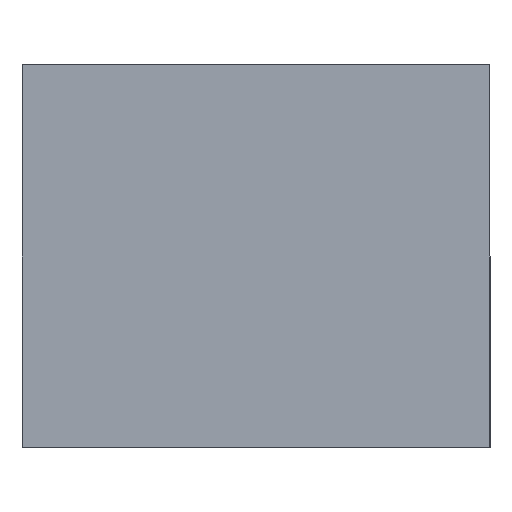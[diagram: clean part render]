
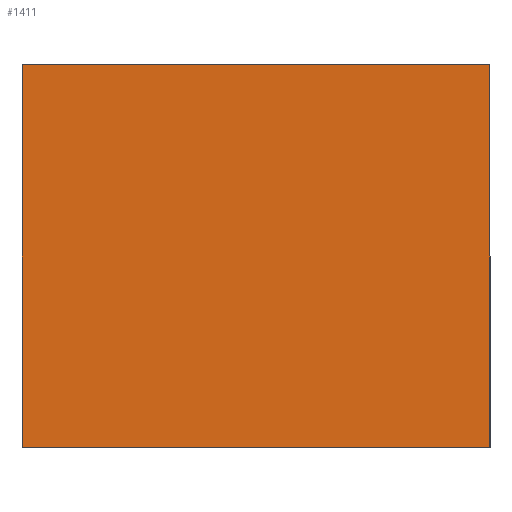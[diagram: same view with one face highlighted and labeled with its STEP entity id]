
A CAD part, left-side view. The second image highlights one B-rep face of the part: STEP entity #1411.
In plain terms, the highlighted planar face has unit normal (-1, 0, 0).
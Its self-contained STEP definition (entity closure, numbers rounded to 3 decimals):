
#161=LINE('',#2504,#265);
#180=LINE('',#2556,#284);
#182=LINE('',#2564,#286);
#183=LINE('',#2565,#287);
#265=VECTOR('',#1894,1000.);
#284=VECTOR('',#1933,1000.);
#286=VECTOR('',#1941,1000.);
#287=VECTOR('',#1942,1000.);
#374=FACE_OUTER_BOUND('',#471,.T.);
#471=EDGE_LOOP('',(#1145,#1146,#1147,#1148));
#662=VERTEX_POINT('',#2501);
#663=VERTEX_POINT('',#2503);
#686=VERTEX_POINT('',#2555);
#689=VERTEX_POINT('',#2563);
#824=EDGE_CURVE('',#662,#663,#161,.T.);
#850=EDGE_CURVE('',#686,#663,#180,.T.);
#854=EDGE_CURVE('',#689,#662,#182,.T.);
#855=EDGE_CURVE('',#689,#686,#183,.T.);
#1145=ORIENTED_EDGE('',*,*,#850,.T.);
#1146=ORIENTED_EDGE('',*,*,#824,.F.);
#1147=ORIENTED_EDGE('',*,*,#854,.F.);
#1148=ORIENTED_EDGE('',*,*,#855,.T.);
#1347=PLANE('',#1598);
#1411=ADVANCED_FACE('',(#374),#1347,.F.);
#1598=AXIS2_PLACEMENT_3D('',#2562,#1939,#1940);
#1894=DIRECTION('',(0.,-1.,0.));
#1933=DIRECTION('',(0.,0.,1.));
#1939=DIRECTION('center_axis',(1.,0.,0.));
#1940=DIRECTION('ref_axis',(0.,0.,-1.));
#1941=DIRECTION('',(0.,0.,1.));
#1942=DIRECTION('',(0.,-1.,0.));
#2501=CARTESIAN_POINT('',(-70.,30.,12.25));
#2503=CARTESIAN_POINT('',(-70.,0.,12.25));
#2504=CARTESIAN_POINT('',(-70.,30.,12.25));
#2555=CARTESIAN_POINT('',(-70.,0.,-12.25));
#2556=CARTESIAN_POINT('',(-70.,0.,-12.25));
#2562=CARTESIAN_POINT('Origin',(-70.,30.,-12.25));
#2563=CARTESIAN_POINT('',(-70.,30.,-12.25));
#2564=CARTESIAN_POINT('',(-70.,30.,-12.25));
#2565=CARTESIAN_POINT('',(-70.,30.,-12.25));
